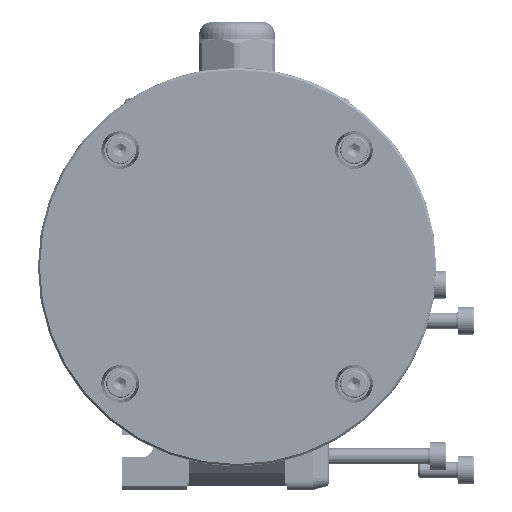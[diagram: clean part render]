
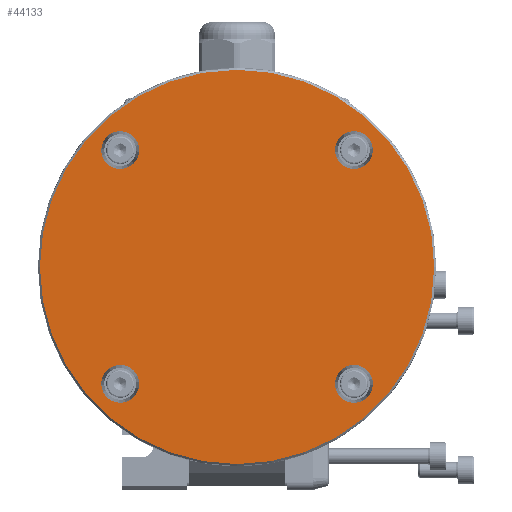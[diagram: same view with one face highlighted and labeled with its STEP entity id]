
A CAD part, left-side view. The second image highlights one B-rep face of the part: STEP entity #44133.
In plain terms, the highlighted planar face has unit normal (-1, 0, 0).
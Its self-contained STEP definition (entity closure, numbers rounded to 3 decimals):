
#9470=PLANE('',#48564);
#11491=FACE_BOUND('',#16797,.T.);
#11492=FACE_BOUND('',#16798,.T.);
#11493=FACE_BOUND('',#16799,.T.);
#11494=FACE_BOUND('',#16800,.T.);
#13705=FACE_OUTER_BOUND('',#16796,.T.);
#16796=EDGE_LOOP('',(#39717));
#16797=EDGE_LOOP('',(#39718));
#16798=EDGE_LOOP('',(#39719));
#16799=EDGE_LOOP('',(#39720));
#16800=EDGE_LOOP('',(#39721));
#19053=CIRCLE('',#48450,4.75);
#19056=CIRCLE('',#48456,4.75);
#19059=CIRCLE('',#48462,4.75);
#19062=CIRCLE('',#48468,4.75);
#19090=CIRCLE('',#48563,49.5);
#22714=VERTEX_POINT('',#75075);
#22717=VERTEX_POINT('',#75084);
#22720=VERTEX_POINT('',#75093);
#22723=VERTEX_POINT('',#75102);
#22794=VERTEX_POINT('',#75664);
#28462=EDGE_CURVE('',#22714,#22714,#19053,.T.);
#28465=EDGE_CURVE('',#22717,#22717,#19056,.T.);
#28468=EDGE_CURVE('',#22720,#22720,#19059,.T.);
#28471=EDGE_CURVE('',#22723,#22723,#19062,.T.);
#28587=EDGE_CURVE('',#22794,#22794,#19090,.T.);
#39717=ORIENTED_EDGE('',*,*,#28587,.F.);
#39718=ORIENTED_EDGE('',*,*,#28462,.T.);
#39719=ORIENTED_EDGE('',*,*,#28465,.T.);
#39720=ORIENTED_EDGE('',*,*,#28468,.T.);
#39721=ORIENTED_EDGE('',*,*,#28471,.T.);
#44133=ADVANCED_FACE('',(#13705,#11491,#11492,#11493,#11494),#9470,.F.);
#48450=AXIS2_PLACEMENT_3D('',#75076,#59930,#59931);
#48456=AXIS2_PLACEMENT_3D('',#75085,#59942,#59943);
#48462=AXIS2_PLACEMENT_3D('',#75094,#59954,#59955);
#48468=AXIS2_PLACEMENT_3D('',#75103,#59966,#59967);
#48563=AXIS2_PLACEMENT_3D('',#75665,#60216,#60217);
#48564=AXIS2_PLACEMENT_3D('',#75666,#60218,#60219);
#59930=DIRECTION('center_axis',(1.,0.,0.));
#59931=DIRECTION('ref_axis',(0.,0.707,0.707));
#59942=DIRECTION('center_axis',(1.,0.,0.));
#59943=DIRECTION('ref_axis',(0.,0.707,-0.707));
#59954=DIRECTION('center_axis',(1.,0.,0.));
#59955=DIRECTION('ref_axis',(0.,-0.707,-0.707));
#59966=DIRECTION('center_axis',(1.,0.,0.));
#59967=DIRECTION('ref_axis',(0.,-0.707,0.707));
#60216=DIRECTION('center_axis',(1.,0.,0.));
#60217=DIRECTION('ref_axis',(0.,0.,
-1.));
#60218=DIRECTION('center_axis',(1.,0.,0.));
#60219=DIRECTION('ref_axis',(0.,0.,-1.));
#75075=CARTESIAN_POINT('',(-59.,32.704,32.704));
#75076=CARTESIAN_POINT('Origin',(-59.,29.345,29.345));
#75084=CARTESIAN_POINT('',(-59.,32.704,-32.704));
#75085=CARTESIAN_POINT('Origin',(-59.,29.345,-29.345));
#75093=CARTESIAN_POINT('',(-59.,-32.704,-32.704));
#75094=CARTESIAN_POINT('Origin',(-59.,-29.345,-29.345));
#75102=CARTESIAN_POINT('',(-59.,-32.704,32.704));
#75103=CARTESIAN_POINT('Origin',(-59.,-29.345,29.345));
#75664=CARTESIAN_POINT('',(-59.,0.,49.5));
#75665=CARTESIAN_POINT('Origin',(-59.,0.,0.));
#75666=CARTESIAN_POINT('Origin',(-59.,0.,0.));
